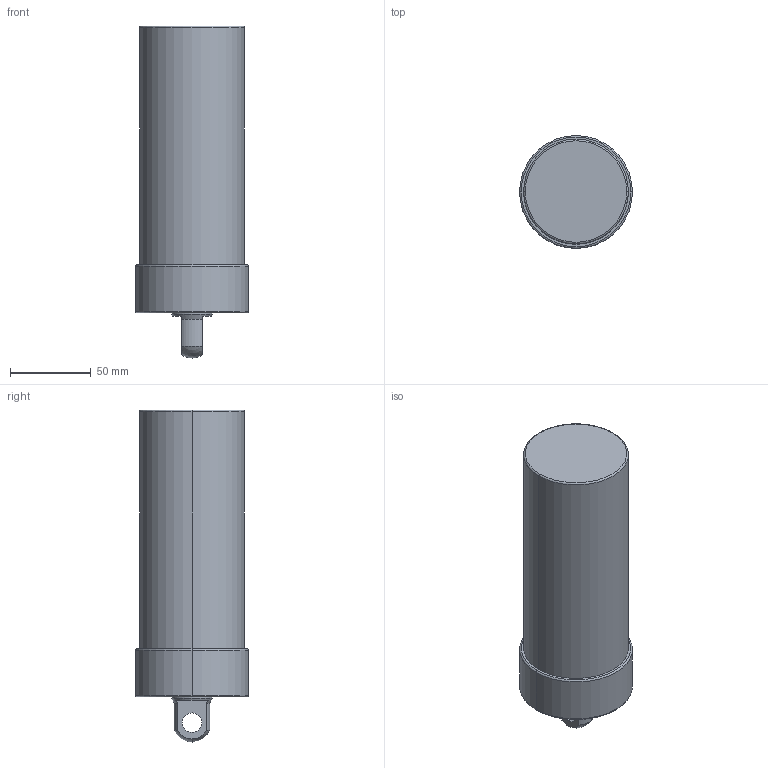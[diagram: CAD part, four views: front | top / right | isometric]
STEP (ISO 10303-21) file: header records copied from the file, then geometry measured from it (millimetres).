
FILE_DESCRIPTION (( 'STEP AP203' ), '1' );
FILE_NAME ('CLLU-065GP-115.STEP', '2020-01-08T00:36:13', ( '' ), ( '' ), 'SwSTEP 2.0', 'SolidWorks 2015', '' );
FILE_SCHEMA (( 'CONFIG_CONTROL_DESIGN' ));
Length unit declared in the file: millimetre
Products named in the file (1): CLLU-065GP-115
Bounding box: 70 x 70 x 206 mm (x, y, z)
Volume: 610648.3 mm3; surface area: 47178.1 mm2
Topology: 1 solids, 1 shells, 57 faces, 130 edges, 75 vertices
Faces by surface type: cylinder 22, cone 18, plane 9, torus 6, sphere 2
Entity records: 1643 total; most frequent: DIRECTION 308, CARTESIAN_POINT 267, ORIENTED_EDGE 244, AXIS2_PLACEMENT_3D 132, EDGE_CURVE 122, VERTEX_POINT 75, CIRCLE 74, EDGE_LOOP 67
